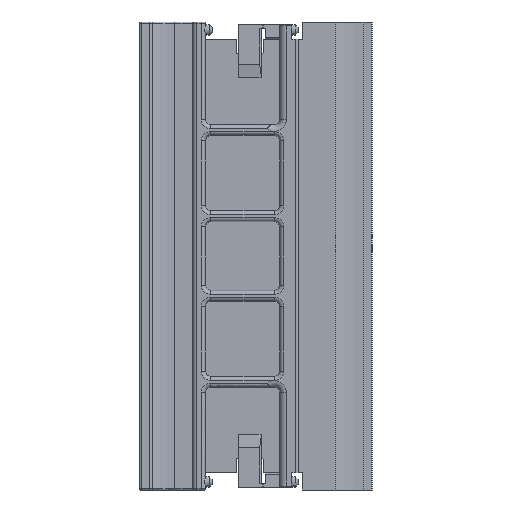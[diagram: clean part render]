
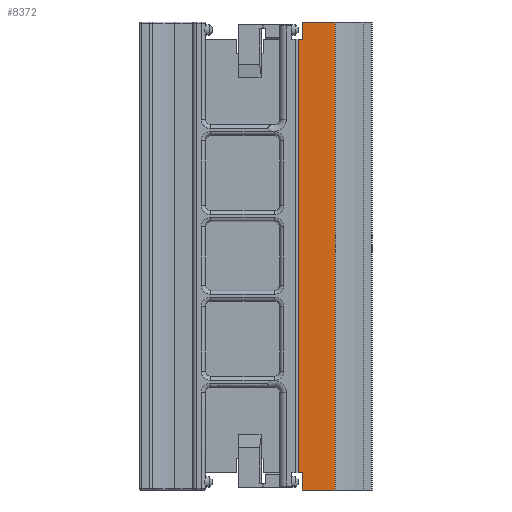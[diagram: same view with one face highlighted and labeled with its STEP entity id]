
A CAD part, front view. The second image highlights one B-rep face of the part: STEP entity #8372.
In plain terms, the highlighted planar face has unit normal (0, -1, 0).
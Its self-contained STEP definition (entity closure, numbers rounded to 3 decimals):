
#4529=CARTESIAN_POINT('',(225.561,163.797,0.));
#4530=VERTEX_POINT('',#4529);
#4531=CARTESIAN_POINT('',(225.561,163.797,6.5));
#4532=VERTEX_POINT('',#4531);
#4533=CARTESIAN_POINT('',(225.561,163.797,0.));
#4534=DIRECTION('',(0.0,0.0,1.0));
#4535=VECTOR('',#4534,6.5);
#4536=LINE('',#4533,#4535);
#4537=EDGE_CURVE('',#4530,#4532,#4536,.T.);
#4569=CARTESIAN_POINT('',(223.962,163.797,6.5));
#4570=VERTEX_POINT('',#4569);
#4571=CARTESIAN_POINT('',(225.561,163.797,6.5));
#4572=DIRECTION('',(-1.0,0.0,0.0));
#4573=VECTOR('',#4572,1.6);
#4574=LINE('',#4571,#4573);
#4575=EDGE_CURVE('',#4532,#4570,#4574,.T.);
#4812=CARTESIAN_POINT('',(238.014,163.797,0.));
#4813=VERTEX_POINT('',#4812);
#4821=CARTESIAN_POINT('',(238.014,163.797,0.));
#4822=DIRECTION('',(-1.0,0.0,0.0));
#4823=VECTOR('',#4822,12.453);
#4824=LINE('',#4821,#4823);
#4825=EDGE_CURVE('',#4813,#4530,#4824,.T.);
#8312=CARTESIAN_POINT('',(223.962,163.797,170.1));
#8313=VERTEX_POINT('',#8312);
#8314=CARTESIAN_POINT('',(223.962,163.797,6.5));
#8315=DIRECTION('',(0.0,0.0,1.0));
#8316=VECTOR('',#8315,163.6);
#8317=LINE('',#8314,#8316);
#8318=EDGE_CURVE('',#4570,#8313,#8317,.T.);
#8331=CARTESIAN_POINT('',(238.014,163.797,0.0));
#8332=DIRECTION('',(0.0,-1.0,0.0));
#8333=DIRECTION('',(0.0,0.0,-1.0));
#8334=AXIS2_PLACEMENT_3D('',#8331,#8332,#8333);
#8335=PLANE('',#8334);
#8336=CARTESIAN_POINT('',(238.014,163.797,176.6));
#8337=VERTEX_POINT('',#8336);
#8338=CARTESIAN_POINT('',(238.014,163.797,0.));
#8339=DIRECTION('',(0.0,0.0,1.0));
#8340=VECTOR('',#8339,176.6);
#8341=LINE('',#8338,#8340);
#8342=EDGE_CURVE('',#4813,#8337,#8341,.T.);
#8343=ORIENTED_EDGE('',*,*,#8342,.T.);
#8344=CARTESIAN_POINT('',(225.561,163.797,176.6));
#8345=VERTEX_POINT('',#8344);
#8346=CARTESIAN_POINT('',(238.014,163.797,176.6));
#8347=DIRECTION('',(-1.0,0.0,0.0));
#8348=VECTOR('',#8347,12.453);
#8349=LINE('',#8346,#8348);
#8350=EDGE_CURVE('',#8337,#8345,#8349,.T.);
#8351=ORIENTED_EDGE('',*,*,#8350,.T.);
#8352=CARTESIAN_POINT('',(225.561,163.797,170.1));
#8353=VERTEX_POINT('',#8352);
#8354=CARTESIAN_POINT('',(225.561,163.797,176.6));
#8355=DIRECTION('',(0.0,0.0,-1.0));
#8356=VECTOR('',#8355,6.5);
#8357=LINE('',#8354,#8356);
#8358=EDGE_CURVE('',#8345,#8353,#8357,.T.);
#8359=ORIENTED_EDGE('',*,*,#8358,.T.);
#8360=CARTESIAN_POINT('',(225.561,163.797,170.1));
#8361=DIRECTION('',(-1.0,0.0,0.0));
#8362=VECTOR('',#8361,1.6);
#8363=LINE('',#8360,#8362);
#8364=EDGE_CURVE('',#8353,#8313,#8363,.T.);
#8365=ORIENTED_EDGE('',*,*,#8364,.T.);
#8366=ORIENTED_EDGE('',*,*,#8318,.F.);
#8367=ORIENTED_EDGE('',*,*,#4575,.F.);
#8368=ORIENTED_EDGE('',*,*,#4537,.F.);
#8369=ORIENTED_EDGE('',*,*,#4825,.F.);
#8370=EDGE_LOOP('',(#8343,#8351,#8359,#8365,#8366,#8367,#8368,#8369));
#8371=FACE_OUTER_BOUND('',#8370,.T.);
#8372=ADVANCED_FACE('',(#8371),#8335,.T.);
